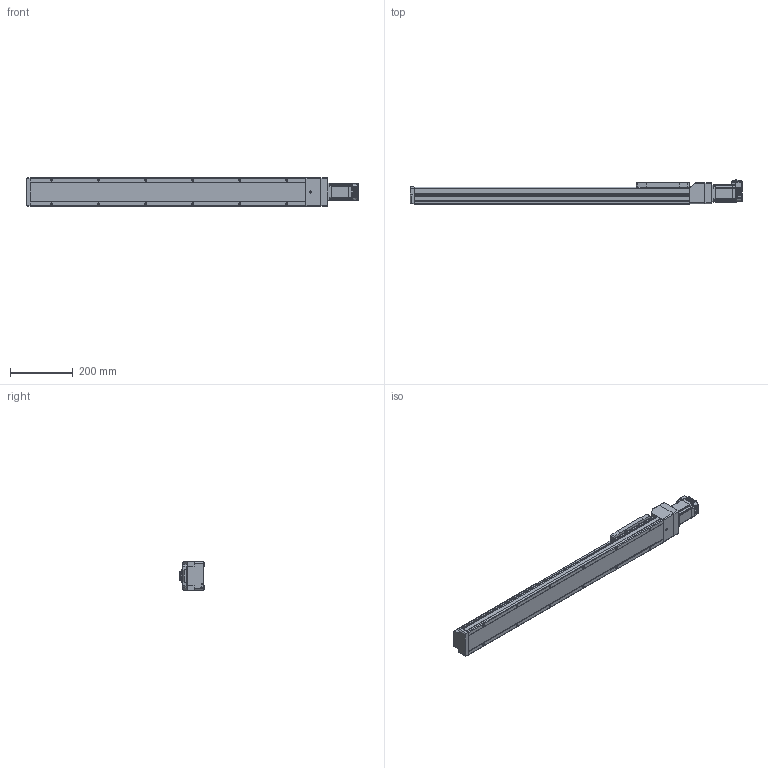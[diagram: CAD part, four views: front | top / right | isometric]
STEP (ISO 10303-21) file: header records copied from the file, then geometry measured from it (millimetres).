
FILE_DESCRIPTION (( 'STEP AP214' ), '1' );
FILE_NAME ('LEFS3(+)-40NM1仩-700-23L.STEP', '2023-06-02T05:16:35', ( '' ), ( '' ), 'SwSTEP 2.0', 'SolidWorks 2019', '' );
FILE_SCHEMA (( 'AUTOMOTIVE_DESIGN' ));
Length unit declared in the file: millimetre
Products named in the file (5): LEFS3(+)-40NM1仩-700-23L; CM3(+)-23L50A_4-M4; LEFS3(+)-40NM1?_BODY_700; LEFS3(+)-40NM1_TABLE; LEFS3(+)-40NM1_Motor Flange
Assembly tree (4 placements, depth 2):
  LEFS3(+)-40NM1仩-700-23L
    LEFS3(+)-40NM1?_BODY_700
    LEFS3(+)-40NM1_TABLE
    LEFS3(+)-40NM1_Motor Flange
    CM3(+)-23L50A_4-M4
Bounding box: 1057.6 x 76.75 x 90 mm (x, y, z)
Volume: 4444240.4 mm3; surface area: 394153.1 mm2
Topology: 5 solids, 14 shells, 1658 faces, 4305 edges, 2664 vertices
Faces by surface type: plane 764, cylinder 523, bspline 133, cone 117, torus 74, sphere 47
Entity records: 56221 total; most frequent: CARTESIAN_POINT 14033, ORIENTED_EDGE 8460, DIRECTION 7894, EDGE_CURVE 4230, AXIS2_PLACEMENT_3D 2688, VERTEX_POINT 2664, VECTOR 2518, LINE 2518
